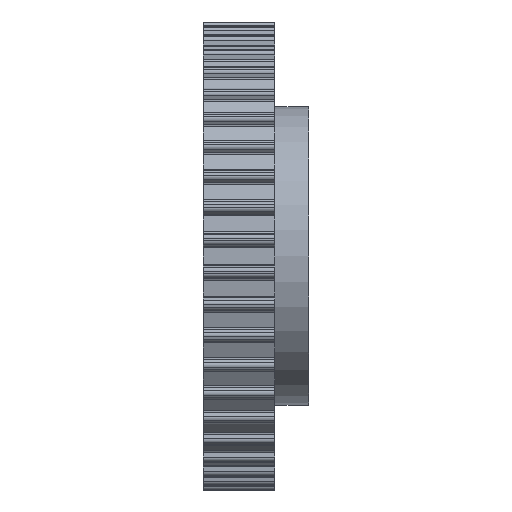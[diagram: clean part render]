
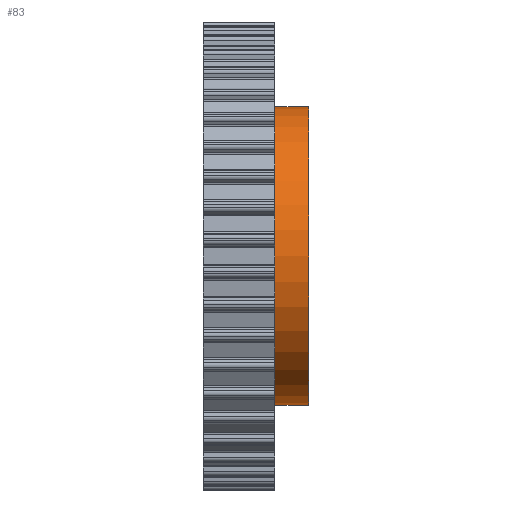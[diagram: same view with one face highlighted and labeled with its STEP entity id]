
A CAD part, front view. The second image highlights one B-rep face of the part: STEP entity #83.
In plain terms, the highlighted cylindrical face has radius 44 mm (diameter 88 mm), a full revolution.
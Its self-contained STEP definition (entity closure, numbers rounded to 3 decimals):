
#83 = ADVANCED_FACE( '', ( #453, #454 ), #455, .T. );
#453 = FACE_OUTER_BOUND( '', #1172, .T. );
#454 = FACE_OUTER_BOUND( '', #1173, .T. );
#455 = CYLINDRICAL_SURFACE( '', #1174, 44. );
#1172 = EDGE_LOOP( '', ( #2621 ) );
#1173 = EDGE_LOOP( '', ( #2622 ) );
#1174 = AXIS2_PLACEMENT_3D( '', #2623, #2624, #2625 );
#2621 = ORIENTED_EDGE( '', *, *, #5772, .T. );
#2622 = ORIENTED_EDGE( '', *, *, #5774, .F. );
#2623 = CARTESIAN_POINT( '', ( 31., 0., 0. ) );
#2624 = DIRECTION( '', ( -1., 0., 0. ) );
#2625 = DIRECTION( '', ( 0., 0., -1. ) );
#5772 = EDGE_CURVE( '', #7537, #7537, #7538, .T. );
#5774 = EDGE_CURVE( '', #7541, #7541, #7542, .T. );
#7537 = VERTEX_POINT( '', #9574 );
#7538 = CIRCLE( '', #9575, 44. );
#7541 = VERTEX_POINT( '', #9578 );
#7542 = CIRCLE( '', #9579, 44. );
#9574 = CARTESIAN_POINT( '', ( 21., 0., -44. ) );
#9575 = AXIS2_PLACEMENT_3D( '', #11866, #11867, #11868 );
#9578 = CARTESIAN_POINT( '', ( 31., 0., -44. ) );
#9579 = AXIS2_PLACEMENT_3D( '', #11872, #11873, #11874 );
#11866 = CARTESIAN_POINT( '', ( 21., 0., 0. ) );
#11867 = DIRECTION( '', ( 1., 0., 0. ) );
#11868 = DIRECTION( '', ( 0., 0., -1. ) );
#11872 = CARTESIAN_POINT( '', ( 31., 0., 0. ) );
#11873 = DIRECTION( '', ( 1., 0., 0. ) );
#11874 = DIRECTION( '', ( 0., 0., -1. ) );
